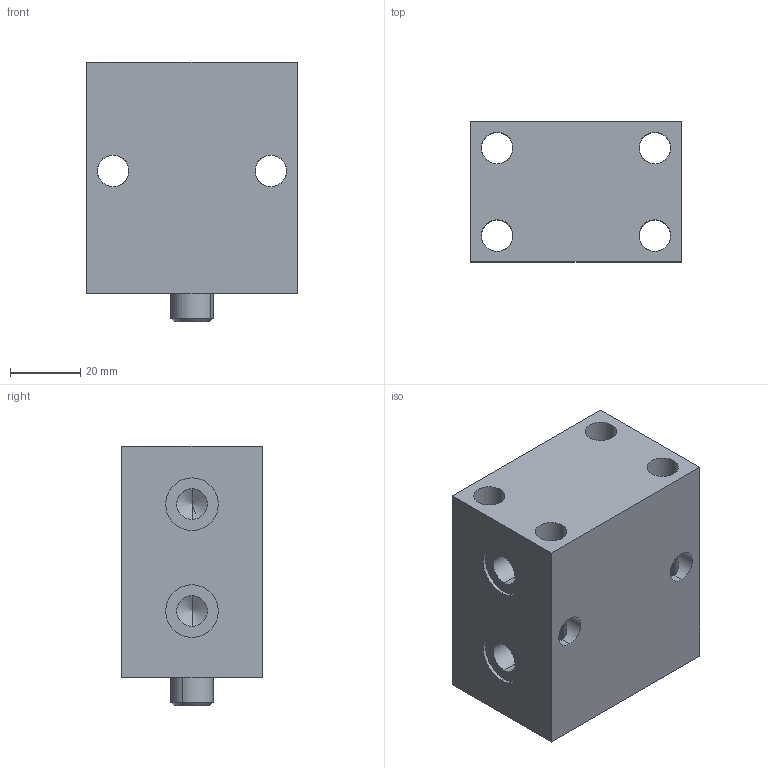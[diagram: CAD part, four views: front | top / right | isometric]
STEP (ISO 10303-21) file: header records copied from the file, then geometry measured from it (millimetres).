
FILE_DESCRIPTION (( 'STEP AP203' ), '1' );
FILE_NAME ('Block cylinder B01C-016F.STEP', '2022-07-09T18:24:30', ( '' ), ( '' ), 'SwSTEP 2.0', 'SolidWorks 2017', '' );
FILE_SCHEMA (( 'CONFIG_CONTROL_DESIGN' ));
Length unit declared in the file: millimetre
Products named in the file (3): Body_016F; Piston_016F; Block cylinder B01C-016F
Assembly tree (2 placements, depth 2):
  Block cylinder B01C-016F
    Body_016F
    Piston_016F
Bounding box: 60 x 40 x 74 mm (x, y, z)
Volume: 135932.2 mm3; surface area: 30497.3 mm2
Topology: 2 solids, 2 shells, 341 faces, 928 edges, 605 vertices
Faces by surface type: bspline 154, plane 135, cylinder 44, cone 8
Entity records: 17299 total; most frequent: CARTESIAN_POINT 9499, ORIENTED_EDGE 1844, DIRECTION 1024, EDGE_CURVE 922, VERTEX_POINT 605, VECTOR 524, LINE 524, EDGE_LOOP 381
